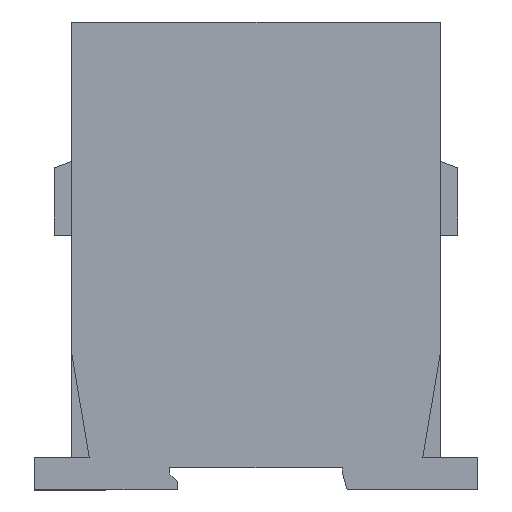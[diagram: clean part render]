
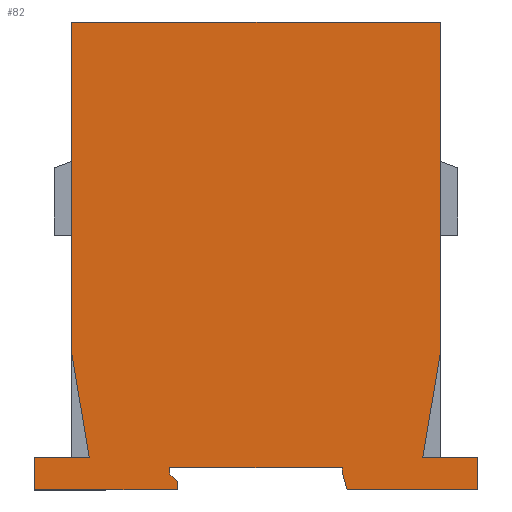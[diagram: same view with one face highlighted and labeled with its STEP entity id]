
A CAD part, front view. The second image highlights one B-rep face of the part: STEP entity #82.
In plain terms, the highlighted planar face has unit normal (0, -1, 0).
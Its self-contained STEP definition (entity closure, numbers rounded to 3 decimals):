
#82 = ADVANCED_FACE ( 'NONE', ( #2441 ), #5836, .F. ) ;
#84 = VERTEX_POINT ( 'NONE', #3991 ) ;
#90 = AXIS2_PLACEMENT_3D ( 'NONE', #2640, #1738, #4926 ) ;
#105 = DIRECTION ( 'NONE',  ( 1., 0., 0. ) ) ;
#108 = ORIENTED_EDGE ( 'NONE', *, *, #171, .F. ) ;
#130 = CARTESIAN_POINT ( 'NONE',  ( -46.54, -49.716, 0. ) ) ;
#152 = ORIENTED_EDGE ( 'NONE', *, *, #2409, .T. ) ;
#171 = EDGE_CURVE ( 'NONE', #3620, #933, #3717, .T. ) ;
#244 = EDGE_CURVE ( 'NONE', #4912, #3004, #1099, .T. ) ;
#267 = CARTESIAN_POINT ( 'NONE',  ( -39.04, -49.716, 94. ) ) ;
#285 = ORIENTED_EDGE ( 'NONE', *, *, #4910, .F. ) ;
#288 = EDGE_CURVE ( 'NONE', #1693, #1474, #2080, .T. ) ;
#326 = CARTESIAN_POINT ( 'NONE',  ( -46.54, -49.716, 0. ) ) ;
#510 = CARTESIAN_POINT ( 'NONE',  ( -39.04, -49.716, 94. ) ) ;
#524 = ORIENTED_EDGE ( 'NONE', *, *, #1123, .F. ) ;
#525 = CARTESIAN_POINT ( 'NONE',  ( 34.96, -49.716, 6.5 ) ) ;
#554 = VECTOR ( 'NONE', #2601, 1000. ) ;
#638 = DIRECTION ( 'NONE',  ( 0., 0., -1. ) ) ;
#694 = VECTOR ( 'NONE', #5591, 1000. ) ;
#861 = ORIENTED_EDGE ( 'NONE', *, *, #2277, .F. ) ;
#933 = VERTEX_POINT ( 'NONE', #3589 ) ;
#1066 = EDGE_CURVE ( 'NONE', #84, #1372, #2023, .T. ) ;
#1099 = LINE ( 'NONE', #2290, #3661 ) ;
#1103 = CARTESIAN_POINT ( 'NONE',  ( 34.96, -49.716, 94. ) ) ;
#1123 = EDGE_CURVE ( 'NONE', #3004, #5348, #4229, .T. ) ;
#1130 = VECTOR ( 'NONE', #3687, 1000. ) ;
#1207 = DIRECTION ( 'NONE',  ( -1., 0., 0. ) ) ;
#1231 = DIRECTION ( 'NONE',  ( 0.275, 0., -0.962 ) ) ;
#1284 = ORIENTED_EDGE ( 'NONE', *, *, #2616, .F. ) ;
#1372 = VERTEX_POINT ( 'NONE', #3453 ) ;
#1407 = LINE ( 'NONE', #326, #4752 ) ;
#1408 = CARTESIAN_POINT ( 'NONE',  ( 34.96, -49.716, 94. ) ) ;
#1431 = CARTESIAN_POINT ( 'NONE',  ( 42.46, -49.716, 43.414 ) ) ;
#1467 = DIRECTION ( 'NONE',  ( -0.164, 0., -0.986 ) ) ;
#1474 = VERTEX_POINT ( 'NONE', #3981 ) ;
#1594 = VECTOR ( 'NONE', #4890, 1000. ) ;
#1605 = VECTOR ( 'NONE', #4150, 1000. ) ;
#1610 = DIRECTION ( 'NONE',  ( 0., 0., 1. ) ) ;
#1615 = LINE ( 'NONE', #267, #5448 ) ;
#1627 = CARTESIAN_POINT ( 'NONE',  ( -17.84, -49.716, 1.7 ) ) ;
#1630 = ORIENTED_EDGE ( 'NONE', *, *, #2481, .T. ) ;
#1632 = LINE ( 'NONE', #1627, #2843 ) ;
#1648 = VERTEX_POINT ( 'NONE', #1408 ) ;
#1693 = VERTEX_POINT ( 'NONE', #2482 ) ;
#1703 = EDGE_LOOP ( 'NONE', ( #4900, #4798, #2985, #1871, #5874, #861, #285, #5469, #3360, #1841, #524, #2024, #152, #1284, #3762, #108, #1630 ) ) ;
#1738 = DIRECTION ( 'NONE',  ( 0., 1., 0. ) ) ;
#1749 = CARTESIAN_POINT ( 'NONE',  ( 15.26, -49.716, 3.5 ) ) ;
#1802 = VECTOR ( 'NONE', #4463, 1000. ) ;
#1841 = ORIENTED_EDGE ( 'NONE', *, *, #4089, .F. ) ;
#1871 = ORIENTED_EDGE ( 'NONE', *, *, #2834, .F. ) ;
#1888 = CARTESIAN_POINT ( 'NONE',  ( -2.04, -49.716, 6.5 ) ) ;
#1892 = LINE ( 'NONE', #2412, #694 ) ;
#2018 = VECTOR ( 'NONE', #1231, 1000. ) ;
#2019 = CARTESIAN_POINT ( 'NONE',  ( 34.96, -49.716, 27.5 ) ) ;
#2023 = LINE ( 'NONE', #1888, #2710 ) ;
#2024 = ORIENTED_EDGE ( 'NONE', *, *, #244, .F. ) ;
#2037 = LINE ( 'NONE', #3269, #4307 ) ;
#2076 = VERTEX_POINT ( 'NONE', #510 ) ;
#2080 = LINE ( 'NONE', #2964, #1594 ) ;
#2186 = CARTESIAN_POINT ( 'NONE',  ( -19.34, -49.716, 43.414 ) ) ;
#2206 = CARTESIAN_POINT ( 'NONE',  ( 15.26, -49.716, 43.414 ) ) ;
#2277 = EDGE_CURVE ( 'NONE', #2076, #1648, #4433, .T. ) ;
#2290 = CARTESIAN_POINT ( 'NONE',  ( -17.84, -49.716, 43.414 ) ) ;
#2326 = CARTESIAN_POINT ( 'NONE',  ( 42.46, -49.716, 0. ) ) ;
#2409 = EDGE_CURVE ( 'NONE', #4912, #3107, #1632, .T. ) ;
#2412 = CARTESIAN_POINT ( 'NONE',  ( -19.34, -49.716, 4.5 ) ) ;
#2441 = FACE_OUTER_BOUND ( 'NONE', #1703, .T. ) ;
#2468 = CARTESIAN_POINT ( 'NONE',  ( -17.84, -49.716, 0. ) ) ;
#2481 = EDGE_CURVE ( 'NONE', #3620, #4477, #4500, .T. ) ;
#2482 = CARTESIAN_POINT ( 'NONE',  ( -35.54, -49.716, 6.5 ) ) ;
#2568 = CARTESIAN_POINT ( 'NONE',  ( -19.34, -49.716, 3.2 ) ) ;
#2601 = DIRECTION ( 'NONE',  ( 0., 0., 1. ) ) ;
#2616 = EDGE_CURVE ( 'NONE', #4199, #3107, #4924, .T. ) ;
#2640 = CARTESIAN_POINT ( 'NONE',  ( -2.04, -49.716, 43.414 ) ) ;
#2650 = LINE ( 'NONE', #5329, #554 ) ;
#2670 = CARTESIAN_POINT ( 'NONE',  ( -19.34, -49.716, 4.5 ) ) ;
#2710 = VECTOR ( 'NONE', #5074, 1000. ) ;
#2745 = VERTEX_POINT ( 'NONE', #2326 ) ;
#2834 = EDGE_CURVE ( 'NONE', #2976, #84, #5738, .T. ) ;
#2838 = DIRECTION ( 'NONE',  ( -1., 0., 0. ) ) ;
#2843 = VECTOR ( 'NONE', #5271, 1000. ) ;
#2946 = VECTOR ( 'NONE', #2838, 1000. ) ;
#2964 = CARTESIAN_POINT ( 'NONE',  ( -35.54, -49.716, 6.5 ) ) ;
#2976 = VERTEX_POINT ( 'NONE', #2019 ) ;
#2985 = ORIENTED_EDGE ( 'NONE', *, *, #1066, .F. ) ;
#3004 = VERTEX_POINT ( 'NONE', #2468 ) ;
#3107 = VERTEX_POINT ( 'NONE', #2568 ) ;
#3249 = EDGE_CURVE ( 'NONE', #1372, #2745, #5879, .T. ) ;
#3269 = CARTESIAN_POINT ( 'NONE',  ( -2.04, -49.716, 6.5 ) ) ;
#3273 = CARTESIAN_POINT ( 'NONE',  ( -46.54, -49.716, 0. ) ) ;
#3360 = ORIENTED_EDGE ( 'NONE', *, *, #3784, .F. ) ;
#3453 = CARTESIAN_POINT ( 'NONE',  ( 42.46, -49.716, 6.5 ) ) ;
#3464 = EDGE_CURVE ( 'NONE', #2745, #4477, #1407, .T. ) ;
#3589 = CARTESIAN_POINT ( 'NONE',  ( 15.26, -49.716, 4.5 ) ) ;
#3620 = VERTEX_POINT ( 'NONE', #1749 ) ;
#3661 = VECTOR ( 'NONE', #638, 1000. ) ;
#3662 = VERTEX_POINT ( 'NONE', #4981 ) ;
#3687 = DIRECTION ( 'NONE',  ( 0., 0., -1. ) ) ;
#3717 = LINE ( 'NONE', #2206, #1802 ) ;
#3732 = EDGE_CURVE ( 'NONE', #1648, #2976, #5314, .T. ) ;
#3762 = ORIENTED_EDGE ( 'NONE', *, *, #3830, .T. ) ;
#3784 = EDGE_CURVE ( 'NONE', #3662, #1693, #2037, .T. ) ;
#3830 = EDGE_CURVE ( 'NONE', #4199, #933, #1892, .T. ) ;
#3896 = CARTESIAN_POINT ( 'NONE',  ( -17.84, -49.716, 1.7 ) ) ;
#3981 = CARTESIAN_POINT ( 'NONE',  ( -39.04, -49.716, 27.5 ) ) ;
#3991 = CARTESIAN_POINT ( 'NONE',  ( 31.46, -49.716, 6.5 ) ) ;
#4089 = EDGE_CURVE ( 'NONE', #5348, #3662, #2650, .T. ) ;
#4150 = DIRECTION ( 'NONE',  ( 0., 0., -1. ) ) ;
#4199 = VERTEX_POINT ( 'NONE', #2670 ) ;
#4229 = LINE ( 'NONE', #3273, #2946 ) ;
#4271 = DIRECTION ( 'NONE',  ( 1., 0., 0. ) ) ;
#4307 = VECTOR ( 'NONE', #105, 1000. ) ;
#4433 = LINE ( 'NONE', #1103, #5631 ) ;
#4463 = DIRECTION ( 'NONE',  ( 0., 0., 1. ) ) ;
#4477 = VERTEX_POINT ( 'NONE', #4732 ) ;
#4500 = LINE ( 'NONE', #4871, #2018 ) ;
#4661 = CARTESIAN_POINT ( 'NONE',  ( 34.96, -49.716, 27.5 ) ) ;
#4669 = VECTOR ( 'NONE', #5379, 1000. ) ;
#4732 = CARTESIAN_POINT ( 'NONE',  ( 16.26, -49.716, 0. ) ) ;
#4752 = VECTOR ( 'NONE', #1207, 1000. ) ;
#4798 = ORIENTED_EDGE ( 'NONE', *, *, #3249, .F. ) ;
#4871 = CARTESIAN_POINT ( 'NONE',  ( 15.26, -49.716, 3.5 ) ) ;
#4890 = DIRECTION ( 'NONE',  ( -0.164, 0., 0.986 ) ) ;
#4900 = ORIENTED_EDGE ( 'NONE', *, *, #3464, .F. ) ;
#4910 = EDGE_CURVE ( 'NONE', #1474, #2076, #1615, .T. ) ;
#4912 = VERTEX_POINT ( 'NONE', #3896 ) ;
#4924 = LINE ( 'NONE', #2186, #4669 ) ;
#4926 = DIRECTION ( 'NONE',  ( 0., 0., 1. ) ) ;
#4981 = CARTESIAN_POINT ( 'NONE',  ( -46.54, -49.716, 6.5 ) ) ;
#5074 = DIRECTION ( 'NONE',  ( 1., 0., 0. ) ) ;
#5271 = DIRECTION ( 'NONE',  ( -0.707, 0., 0.707 ) ) ;
#5314 = LINE ( 'NONE', #525, #1130 ) ;
#5329 = CARTESIAN_POINT ( 'NONE',  ( -46.54, -49.716, 43.414 ) ) ;
#5348 = VERTEX_POINT ( 'NONE', #130 ) ;
#5379 = DIRECTION ( 'NONE',  ( 0., 0., -1. ) ) ;
#5389 = VECTOR ( 'NONE', #1467, 1000. ) ;
#5448 = VECTOR ( 'NONE', #1610, 1000. ) ;
#5469 = ORIENTED_EDGE ( 'NONE', *, *, #288, .F. ) ;
#5591 = DIRECTION ( 'NONE',  ( 1., 0., 0. ) ) ;
#5631 = VECTOR ( 'NONE', #4271, 1000. ) ;
#5738 = LINE ( 'NONE', #4661, #5389 ) ;
#5836 = PLANE ( 'NONE',  #90 ) ;
#5874 = ORIENTED_EDGE ( 'NONE', *, *, #3732, .F. ) ;
#5879 = LINE ( 'NONE', #1431, #1605 ) ;
